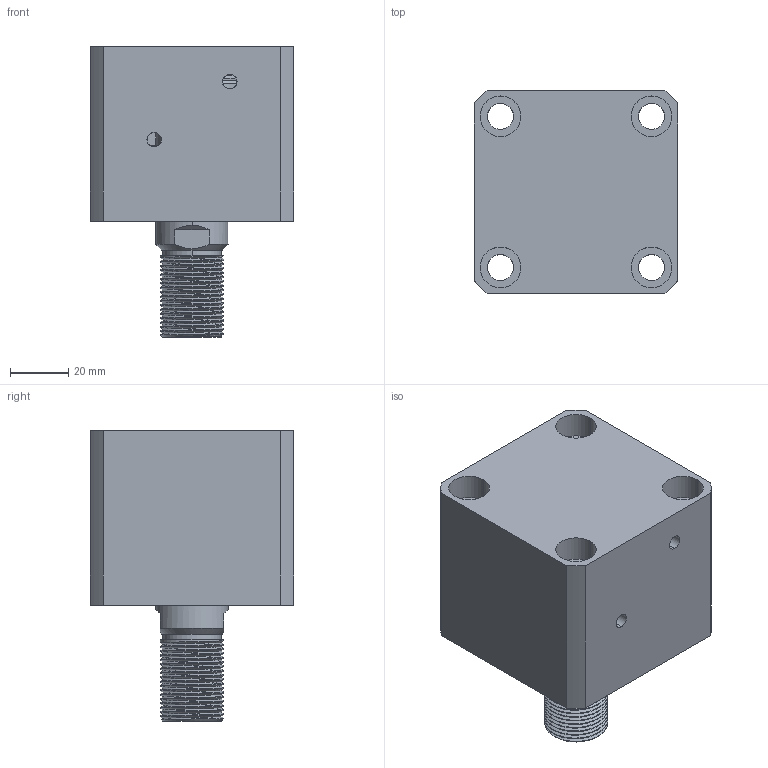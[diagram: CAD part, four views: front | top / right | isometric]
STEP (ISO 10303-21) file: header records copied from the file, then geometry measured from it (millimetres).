
FILE_DESCRIPTION (( 'STEP AP214' ), '1' );
FILE_NAME ('chtb-sdma40x5w_asm.STEP', '2018-06-06T01:12:02', ( 'Windows' ), ( 'Microsoft' ), 'SwSTEP 2.0', 'SolidWorks 2015', '' );
FILE_SCHEMA (( 'AUTOMOTIVE_DESIGN' ));
Length unit declared in the file: millimetre
Products named in the file (4): CHTB-SDMA40X5NBT; CHTB-SD40X5WHSG; CHTB-SD40QG; chtb-sdma40x5w_asm
Assembly tree (3 placements, depth 2):
  chtb-sdma40x5w_asm
    CHTB-SD40QG
    CHTB-SD40X5WHSG
    CHTB-SDMA40X5NBT
Bounding box: 70 x 70 x 100 mm (x, y, z)
Volume: 276836.2 mm3; surface area: 64300.2 mm2
Topology: 3 solids, 4 shells, 203 faces, 545 edges, 363 vertices
Faces by surface type: cylinder 122, plane 40, bspline 16, torus 14, cone 11
Entity records: 13587 total; most frequent: CARTESIAN_POINT 8658, ORIENTED_EDGE 1078, DIRECTION 914, EDGE_CURVE 539, AXIS2_PLACEMENT_3D 378, VERTEX_POINT 363, EDGE_LOOP 240, ADVANCED_FACE 203
